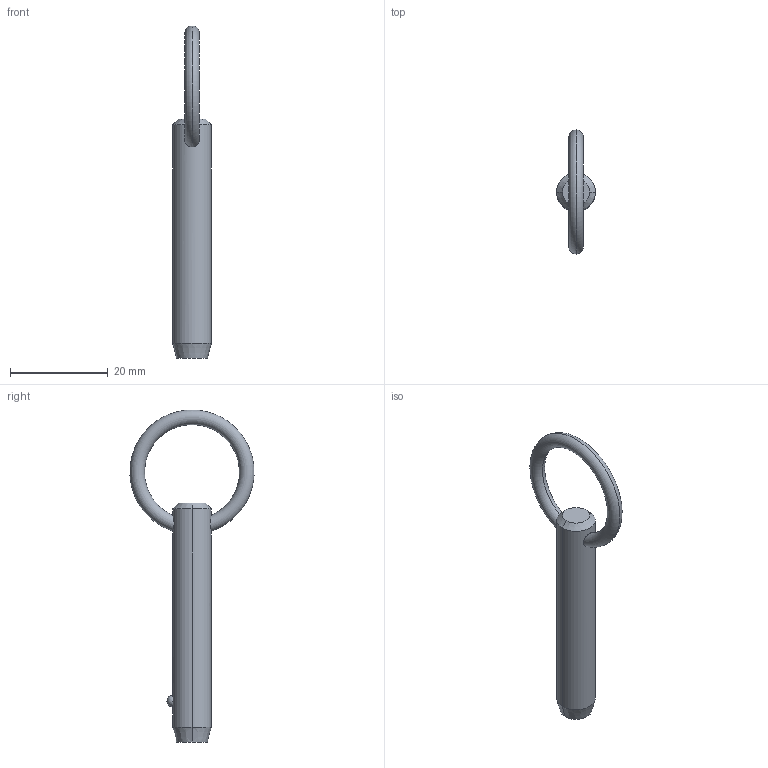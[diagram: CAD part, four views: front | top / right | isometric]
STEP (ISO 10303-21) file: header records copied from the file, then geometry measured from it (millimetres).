
FILE_DESCRIPTION (( 'STEP AP203' ), '1' );
FILE_NAME ('P1250.031-130.step', '2019-07-29T19:48:57', ( '' ), ( '' ), 'SwSTEP 2.0', 'SolidWorks 2017', '' );
FILE_SCHEMA (( 'CONFIG_CONTROL_DESIGN' ));
Length unit declared in the file: millimetre
Products named in the file (1): P1250.031-130
Bounding box: 7.93 x 25.36 x 67.9 mm (x, y, z)
Volume: 2814.2 mm3; surface area: 1852.9 mm2
Topology: 1 solids, 1 shells, 12 faces, 28 edges, 17 vertices
Faces by surface type: cone 4, torus 2, sphere 2, cylinder 2, plane 2
Entity records: 509 total; most frequent: CARTESIAN_POINT 176, DIRECTION 56, ORIENTED_EDGE 48, AXIS2_PLACEMENT_3D 25, EDGE_CURVE 24, EDGE_LOOP 15, VERTEX_POINT 15, ADVANCED_FACE 12
